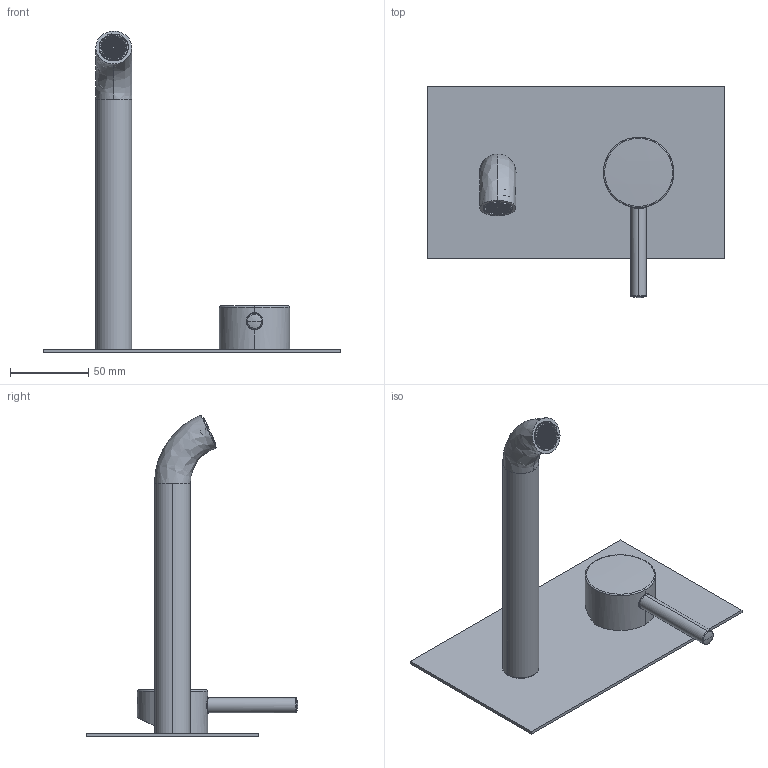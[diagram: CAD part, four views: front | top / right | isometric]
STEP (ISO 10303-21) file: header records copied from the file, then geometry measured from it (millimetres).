
FILE_DESCRIPTION (( 'STEP AP214' ), '1' );
FILE_NAME ('12319310 x architetti.STEP', '2024-09-16T06:56:19', ( '' ), ( '' ), 'SwSTEP 2.0', 'SolidWorks 2020', '' );
FILE_SCHEMA (( 'AUTOMOTIVE_DESIGN' ));
Length unit declared in the file: millimetre
Products named in the file (1): 12319310 x architetti
Bounding box: 190 x 135 x 205.46 mm (x, y, z)
Volume: 153707.3 mm3; surface area: 74252 mm2
Topology: 4 solids, 4 shells, 3938 faces, 11370 edges, 7358 vertices
Faces by surface type: plane 3348, cylinder 433, bspline 143, cone 14
Entity records: 189868 total; most frequent: CARTESIAN_POINT 54030, ORIENTED_EDGE 22736, DIRECTION 13727, EDGE_CURVE 11368, VERTEX_POINT 7358, LINE 5237, VECTOR 5237, B_SPLINE_CURVE_WITH_KNOTS 5044
